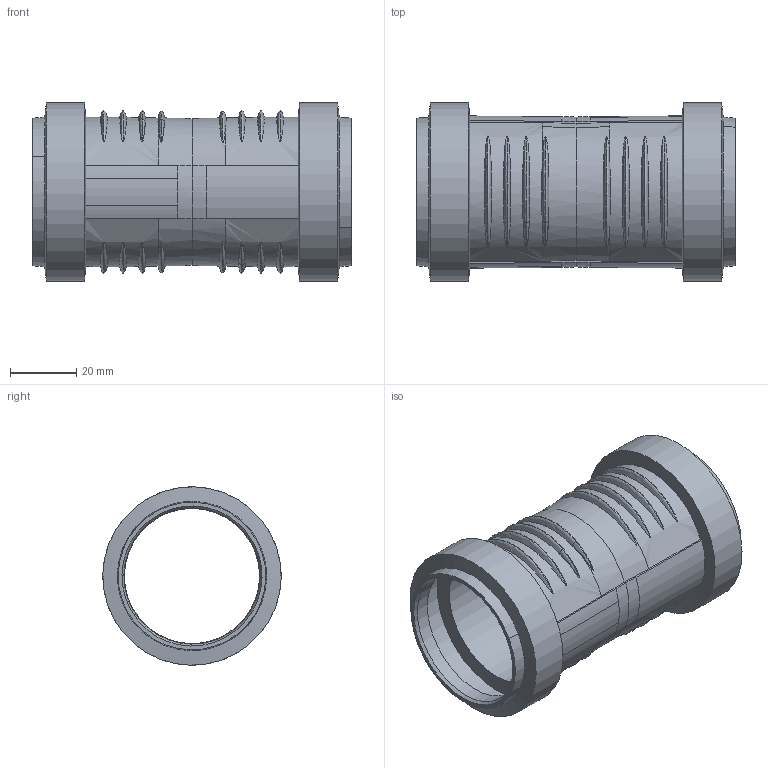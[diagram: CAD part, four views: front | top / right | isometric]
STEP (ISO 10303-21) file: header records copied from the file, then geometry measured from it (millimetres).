
FILE_DESCRIPTION(/* description */ (''),/* implementation_level */ '2;1');
FILE_NAME(/* name */ '390117.stp',/* time_stamp */ '2023-09-26T13:20:37+02:00',/* author */ ('JANAN'),/* organization */ (''),/* preprocessor_version */ 'ST-DEVELOPER v19.2',/* originating_system */ 'Autodesk Inventor 2023',/* authorisation */ '');
FILE_SCHEMA (('AUTOMOTIVE_DESIGN { 1 0 10303 214 3 1 1 }'));
Length unit declared in the file: millimetre
Products named in the file (1): tmp69B1.tmp
Bounding box: 96 x 53.69 x 53.69 mm (x, y, z)
Volume: 32721.3 mm3; surface area: 33296.1 mm2
Topology: 1 solids, 1 shells, 97 faces, 242 edges, 159 vertices
Faces by surface type: bspline 74, cone 10, cylinder 7, plane 6
Full cylindrical faces by diameter (mm): 40.7 x1, 41 x2, 50.1 x2, 53.7 x2
Entity records: 13937 total; most frequent: CARTESIAN_POINT 11823, ORIENTED_EDGE 492, DIRECTION 315, EDGE_CURVE 246, VERTEX_POINT 163, AXIS2_PLACEMENT_3D 149, CIRCLE 117, EDGE_LOOP 111
